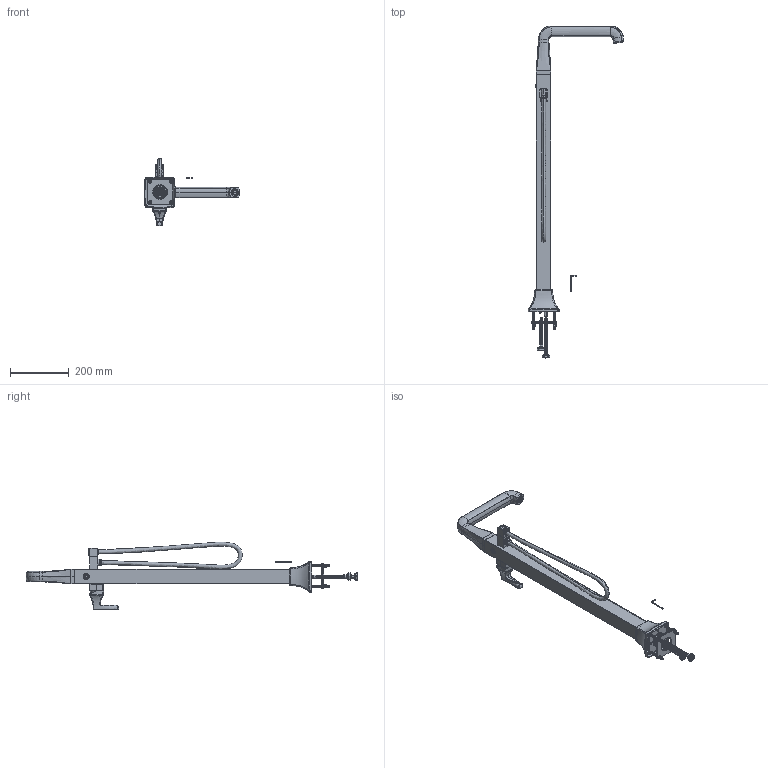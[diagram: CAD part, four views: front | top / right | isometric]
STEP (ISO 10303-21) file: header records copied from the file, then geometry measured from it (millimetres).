
FILE_DESCRIPTION (( 'STEP AP214' ), '1' );
FILE_NAME ('FSTF5672.STEP', '2025-01-02T07:34:36', ( '' ), ( '' ), 'SwSTEP 2.0', 'SolidWorks 2023', '' );
FILE_SCHEMA (( 'AUTOMOTIVE_DESIGN' ));
Products named in the file (1): FSTF5672
Bounding box: 325.55 x 1127.66 x 229.66 mm (x, y, z)
Surface area: 638466.6 mm2 (no closed solid volume)
Topology: 0 solids, 436 shells, 1295 faces, 4651 edges, 3662 vertices
Faces by surface type: cylinder 528, plane 302, cone 264, bspline 184, torus 17
Entity records: 129553 total; most frequent: CARTESIAN_POINT 97709, ORIENTED_EDGE 6136, EDGE_CURVE 4650, DIRECTION 4550, VERTEX_POINT 3662, B_SPLINE_CURVE_WITH_KNOTS 2928, AXIS2_PLACEMENT_3D 1906, EDGE_LOOP 1408
